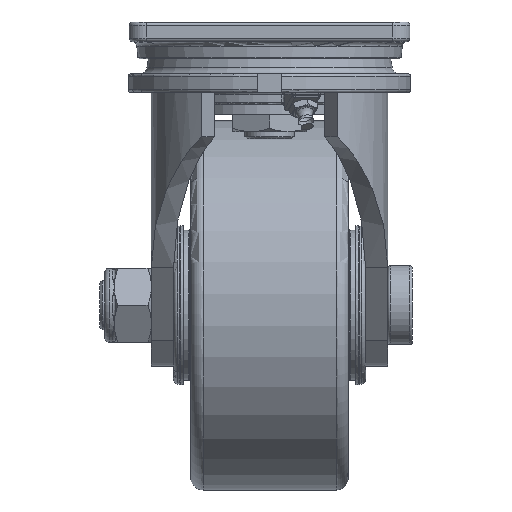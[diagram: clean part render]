
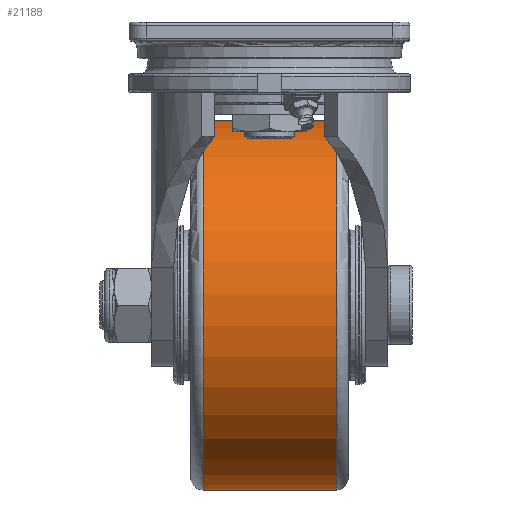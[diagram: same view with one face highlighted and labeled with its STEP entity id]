
A CAD part, left-side view. The second image highlights one B-rep face of the part: STEP entity #21188.
In plain terms, the highlighted cylindrical face has radius 75 mm (diameter 150 mm), a full revolution.
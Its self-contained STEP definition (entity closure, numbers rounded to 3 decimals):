
#2059=LINE('',#29588,#3688);
#3688=VECTOR('',#24507,75.);
#5249=CYLINDRICAL_SURFACE('',#22579,75.);
#5509=FACE_OUTER_BOUND('',#6763,.T.);
#6763=EDGE_LOOP('',(#14727,#14728,#14729,#14730,#14731,#14732,#14733,#14734));
#8129=CIRCLE('',#22539,75.);
#8130=CIRCLE('',#22540,75.);
#8131=CIRCLE('',#22541,75.);
#8152=CIRCLE('',#22575,75.);
#8153=CIRCLE('',#22576,75.);
#8154=CIRCLE('',#22577,75.);
#8979=VERTEX_POINT('',#29514);
#8980=VERTEX_POINT('',#29516);
#8981=VERTEX_POINT('',#29518);
#9000=VERTEX_POINT('',#29580);
#9001=VERTEX_POINT('',#29581);
#9002=VERTEX_POINT('',#29583);
#11196=EDGE_CURVE('',#8979,#8980,#8129,.T.);
#11197=EDGE_CURVE('',#8980,#8981,#8130,.T.);
#11198=EDGE_CURVE('',#8981,#8979,#8131,.T.);
#11227=EDGE_CURVE('',#9000,#9001,#8152,.T.);
#11228=EDGE_CURVE('',#9002,#9000,#8153,.T.);
#11229=EDGE_CURVE('',#9001,#9002,#8154,.T.);
#11231=EDGE_CURVE('',#8980,#9002,#2059,.T.);
#14727=ORIENTED_EDGE('',*,*,#11198,.F.);
#14728=ORIENTED_EDGE('',*,*,#11197,.F.);
#14729=ORIENTED_EDGE('',*,*,#11231,.T.);
#14730=ORIENTED_EDGE('',*,*,#11228,.T.);
#14731=ORIENTED_EDGE('',*,*,#11227,.T.);
#14732=ORIENTED_EDGE('',*,*,#11229,.T.);
#14733=ORIENTED_EDGE('',*,*,#11231,.F.);
#14734=ORIENTED_EDGE('',*,*,#11196,.F.);
#21188=ADVANCED_FACE('',(#5509),#5249,.T.);
#22539=AXIS2_PLACEMENT_3D('',#29517,#24417,#24418);
#22540=AXIS2_PLACEMENT_3D('',#29519,#24419,#24420);
#22541=AXIS2_PLACEMENT_3D('',#29520,#24421,#24422);
#22575=AXIS2_PLACEMENT_3D('',#29582,#24497,#24498);
#22576=AXIS2_PLACEMENT_3D('',#29584,#24499,#24500);
#22577=AXIS2_PLACEMENT_3D('',#29585,#24501,#24502);
#22579=AXIS2_PLACEMENT_3D('',#29587,#24505,#24506);
#24417=DIRECTION('center_axis',(0.,1.,0.));
#24418=DIRECTION('ref_axis',(1.,0.,0.));
#24419=DIRECTION('center_axis',(0.,1.,0.));
#24420=DIRECTION('ref_axis',(1.,0.,0.));
#24421=DIRECTION('center_axis',(0.,1.,0.));
#24422=DIRECTION('ref_axis',(1.,0.,0.));
#24497=DIRECTION('center_axis',(0.,1.,0.));
#24498=DIRECTION('ref_axis',(1.,0.,0.));
#24499=DIRECTION('center_axis',(0.,1.,0.));
#24500=DIRECTION('ref_axis',(1.,0.,0.));
#24501=DIRECTION('center_axis',(0.,1.,0.));
#24502=DIRECTION('ref_axis',(1.,0.,0.));
#24505=DIRECTION('center_axis',(0.,1.,0.));
#24506=DIRECTION('ref_axis',(0.235,0.,0.972));
#24507=DIRECTION('',(0.,-1.,0.));
#29514=CARTESIAN_POINT('',(52.,27.,-160.));
#29516=CARTESIAN_POINT('',(34.339,27.,-157.891));
#29517=CARTESIAN_POINT('Origin',(52.,27.,-85.));
#29518=CARTESIAN_POINT('',(69.661,27.,-12.109));
#29519=CARTESIAN_POINT('Origin',(52.,27.,-85.));
#29520=CARTESIAN_POINT('Origin',(52.,27.,-85.));
#29580=CARTESIAN_POINT('',(69.661,-27.,-12.109));
#29581=CARTESIAN_POINT('',(52.,-27.,-160.));
#29582=CARTESIAN_POINT('Origin',(52.,-27.,-85.));
#29583=CARTESIAN_POINT('',(34.339,-27.,-157.891));
#29584=CARTESIAN_POINT('Origin',(52.,-27.,-85.));
#29585=CARTESIAN_POINT('Origin',(52.,-27.,-85.));
#29587=CARTESIAN_POINT('Origin',(52.,0.,
-85.));
#29588=CARTESIAN_POINT('',(34.339,0.,-157.891));
